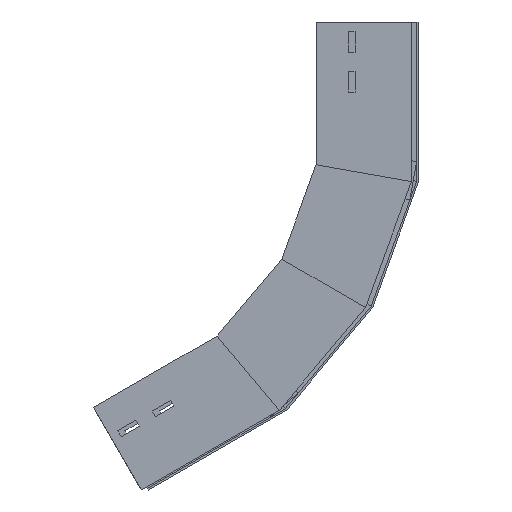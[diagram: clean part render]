
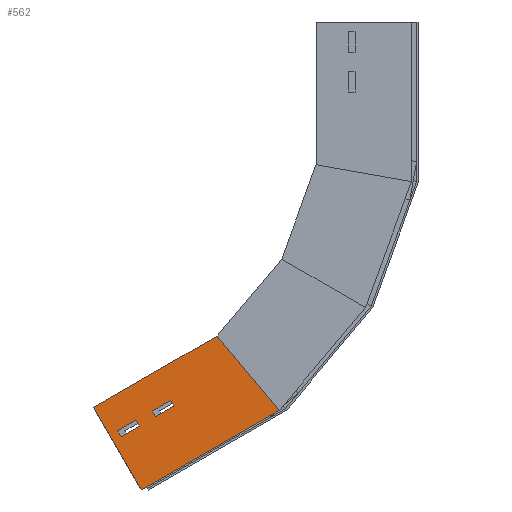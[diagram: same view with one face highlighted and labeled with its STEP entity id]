
A CAD part, left-side view. The second image highlights one B-rep face of the part: STEP entity #562.
In plain terms, the highlighted planar face has unit normal (-1, 0, 0) as drawn and (1, 0, 0) by its records, which use the part's own axes.
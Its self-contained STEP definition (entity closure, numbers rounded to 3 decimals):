
#20 = EDGE_LOOP ( 'NONE', ( #1112, #463, #498, #329 ) ) ;
#73 = EDGE_CURVE ( 'NONE', #1531, #1127, #1663, .T. ) ;
#75 = CARTESIAN_POINT ( 'NONE',  ( 0., 66., -73.505 ) ) ;
#78 = DIRECTION ( 'NONE',  ( 0., 0., -1. ) ) ;
#119 = DIRECTION ( 'NONE',  ( 0., 0., -1. ) ) ;
#129 = CARTESIAN_POINT ( 'NONE',  ( 0., 66., -9.835 ) ) ;
#145 = CARTESIAN_POINT ( 'NONE',  ( 0., 0., 0. ) ) ;
#147 = VECTOR ( 'NONE', #170, 1000. ) ;
#157 = DIRECTION ( 'NONE',  ( 0., 0., 1. ) ) ;
#170 = DIRECTION ( 'NONE',  ( 0., 0., -1. ) ) ;
#187 = CARTESIAN_POINT ( 'NONE',  ( 0., 66., -9.835 ) ) ;
#204 = CARTESIAN_POINT ( 'NONE',  ( 0., 59., -73.505 ) ) ;
#223 = ORIENTED_EDGE ( 'NONE', *, *, #465, .T. ) ;
#245 = DIRECTION ( 'NONE',  ( 0., 1., 0. ) ) ;
#320 = EDGE_LOOP ( 'NONE', ( #1316, #898, #606, #844 ) ) ;
#324 = CARTESIAN_POINT ( 'NONE',  ( 0., 59., -9.835 ) ) ;
#329 = ORIENTED_EDGE ( 'NONE', *, *, #1085, .T. ) ;
#341 = CARTESIAN_POINT ( 'NONE',  ( 0., 66., -51.505 ) ) ;
#385 = EDGE_CURVE ( 'NONE', #1291, #1528, #645, .T. ) ;
#429 = ORIENTED_EDGE ( 'NONE', *, *, #1139, .T. ) ;
#442 = LINE ( 'NONE', #187, #1437 ) ;
#451 = AXIS2_PLACEMENT_3D ( 'NONE', #145, #1087, #157 ) ;
#454 = VECTOR ( 'NONE', #712, 1000. ) ;
#460 = CARTESIAN_POINT ( 'NONE',  ( 0., 0., -167.4 ) ) ;
#462 = LINE ( 'NONE', #605, #454 ) ;
#463 = ORIENTED_EDGE ( 'NONE', *, *, #1559, .T. ) ;
#465 = EDGE_CURVE ( 'NONE', #1528, #1537, #1671, .T. ) ;
#479 = LINE ( 'NONE', #341, #1329 ) ;
#498 = ORIENTED_EDGE ( 'NONE', *, *, #1146, .T. ) ;
#504 = CARTESIAN_POINT ( 'NONE',  ( 0., 59., -51.505 ) ) ;
#530 = DIRECTION ( 'NONE',  ( 0., 0., 1. ) ) ;
#535 = VECTOR ( 'NONE', #530, 1000. ) ;
#562 = ADVANCED_FACE ( 'NONE', ( #800, #793, #1332 ), #1322, .F. ) ;
#586 = CARTESIAN_POINT ( 'NONE',  ( 0., 66., -31.835 ) ) ;
#598 = DIRECTION ( 'NONE',  ( 0., -0.985, -0.174 ) ) ;
#602 = VERTEX_POINT ( 'NONE', #1313 ) ;
#603 = VERTEX_POINT ( 'NONE', #460 ) ;
#605 = CARTESIAN_POINT ( 'NONE',  ( 0., 0., 0. ) ) ;
#606 = ORIENTED_EDGE ( 'NONE', *, *, #1554, .T. ) ;
#607 = CARTESIAN_POINT ( 'NONE',  ( 0., 100., 0. ) ) ;
#645 = LINE ( 'NONE', #1272, #729 ) ;
#692 = VERTEX_POINT ( 'NONE', #853 ) ;
#704 = DIRECTION ( 'NONE',  ( 0., 0., -1. ) ) ;
#712 = DIRECTION ( 'NONE',  ( 0., 1., 0. ) ) ;
#725 = CARTESIAN_POINT ( 'NONE',  ( 0., 66., -31.835 ) ) ;
#729 = VECTOR ( 'NONE', #761, 1000. ) ;
#744 = CARTESIAN_POINT ( 'NONE',  ( 0., 66., -51.505 ) ) ;
#761 = DIRECTION ( 'NONE',  ( 0., -1., 0. ) ) ;
#785 = ORIENTED_EDGE ( 'NONE', *, *, #1265, .T. ) ;
#793 = FACE_OUTER_BOUND ( 'NONE', #320, .T. ) ;
#799 = VECTOR ( 'NONE', #1250, 1000. ) ;
#800 = FACE_BOUND ( 'NONE', #1314, .T. ) ;
#806 = EDGE_CURVE ( 'NONE', #1259, #602, #895, .T. ) ;
#844 = ORIENTED_EDGE ( 'NONE', *, *, #1303, .F. ) ;
#853 = CARTESIAN_POINT ( 'NONE',  ( 0., 0., 0. ) ) ;
#854 = CARTESIAN_POINT ( 'NONE',  ( 0., 59., -31.835 ) ) ;
#856 = VERTEX_POINT ( 'NONE', #744 ) ;
#859 = CARTESIAN_POINT ( 'NONE',  ( 0., 59., -9.835 ) ) ;
#868 = CARTESIAN_POINT ( 'NONE',  ( 0., 59., -51.505 ) ) ;
#895 = LINE ( 'NONE', #129, #1073 ) ;
#898 = ORIENTED_EDGE ( 'NONE', *, *, #1297, .F. ) ;
#969 = VECTOR ( 'NONE', #975, 1000. ) ;
#975 = DIRECTION ( 'NONE',  ( 0., 0., 1. ) ) ;
#979 = LINE ( 'NONE', #1262, #1390 ) ;
#1073 = VECTOR ( 'NONE', #245, 1000. ) ;
#1077 = VECTOR ( 'NONE', #119, 1000. ) ;
#1085 = EDGE_CURVE ( 'NONE', #1226, #1259, #1236, .T. ) ;
#1087 = DIRECTION ( 'NONE',  ( -1., 0., 0. ) ) ;
#1109 = LINE ( 'NONE', #1637, #1654 ) ;
#1111 = CARTESIAN_POINT ( 'NONE',  ( 0., 66., -51.505 ) ) ;
#1112 = ORIENTED_EDGE ( 'NONE', *, *, #806, .T. ) ;
#1127 = VERTEX_POINT ( 'NONE', #1646 ) ;
#1139 = EDGE_CURVE ( 'NONE', #856, #1291, #1486, .T. ) ;
#1146 = EDGE_CURVE ( 'NONE', #1266, #1226, #1512, .T. ) ;
#1226 = VERTEX_POINT ( 'NONE', #854 ) ;
#1236 = LINE ( 'NONE', #859, #969 ) ;
#1250 = DIRECTION ( 'NONE',  ( 0., -1., 0. ) ) ;
#1259 = VERTEX_POINT ( 'NONE', #324 ) ;
#1262 = CARTESIAN_POINT ( 'NONE',  ( 0., 28.627, -162.352 ) ) ;
#1265 = EDGE_CURVE ( 'NONE', #1537, #856, #479, .T. ) ;
#1266 = VERTEX_POINT ( 'NONE', #586 ) ;
#1272 = CARTESIAN_POINT ( 'NONE',  ( 0., 66., -73.505 ) ) ;
#1291 = VERTEX_POINT ( 'NONE', #75 ) ;
#1297 = EDGE_CURVE ( 'NONE', #692, #1531, #462, .T. ) ;
#1303 = EDGE_CURVE ( 'NONE', #1127, #603, #979, .T. ) ;
#1313 = CARTESIAN_POINT ( 'NONE',  ( 0., 66., -9.835 ) ) ;
#1314 = EDGE_LOOP ( 'NONE', ( #785, #429, #1335, #223 ) ) ;
#1316 = ORIENTED_EDGE ( 'NONE', *, *, #73, .F. ) ;
#1322 = PLANE ( 'NONE',  #451 ) ;
#1329 = VECTOR ( 'NONE', #1634, 1000. ) ;
#1332 = FACE_BOUND ( 'NONE', #20, .T. ) ;
#1335 = ORIENTED_EDGE ( 'NONE', *, *, #385, .T. ) ;
#1390 = VECTOR ( 'NONE', #598, 1000. ) ;
#1437 = VECTOR ( 'NONE', #704, 1000. ) ;
#1486 = LINE ( 'NONE', #1111, #147 ) ;
#1512 = LINE ( 'NONE', #725, #799 ) ;
#1528 = VERTEX_POINT ( 'NONE', #204 ) ;
#1531 = VERTEX_POINT ( 'NONE', #607 ) ;
#1532 = CARTESIAN_POINT ( 'NONE',  ( 0., 100., 0. ) ) ;
#1537 = VERTEX_POINT ( 'NONE', #868 ) ;
#1554 = EDGE_CURVE ( 'NONE', #692, #603, #1109, .T. ) ;
#1559 = EDGE_CURVE ( 'NONE', #602, #1266, #442, .T. ) ;
#1634 = DIRECTION ( 'NONE',  ( 0., 1., 0. ) ) ;
#1637 = CARTESIAN_POINT ( 'NONE',  ( 0., 0., 0. ) ) ;
#1646 = CARTESIAN_POINT ( 'NONE',  ( 0., 100., -149.767 ) ) ;
#1654 = VECTOR ( 'NONE', #78, 1000. ) ;
#1663 = LINE ( 'NONE', #1532, #1077 ) ;
#1671 = LINE ( 'NONE', #504, #535 ) ;
